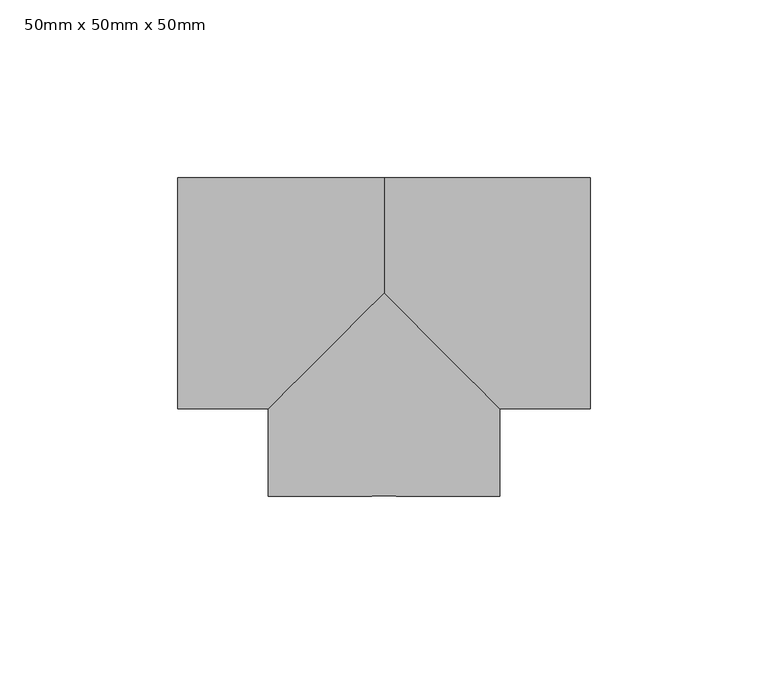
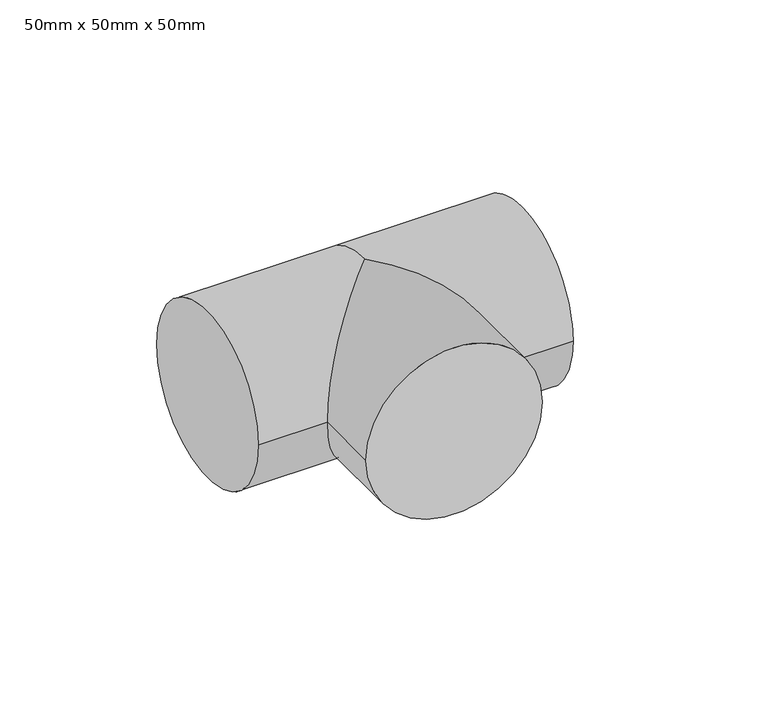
"""IFC4 building model written with IfcOpenShell, lengths in millimetres: pipe fitting geometry, PipeFitting_HTA_CPVC_Tees90° : 50mm x 50mm x 50mm."""

from ifc_helpers import new_model, si_unit, frame, origin, place, context, project, spatial, circle_curve, ellipse_curve, source, transform, mapped, element, save
from ifc_brep_helpers import plane_surface, cylinder_surface, advanced_brep


def pipe_fitting_50mm_x_50mm_x_50mm_cc9808cf(model_context):
    return source(origin(), model_context, "Body", "AdvancedBrep", [
        advanced_brep(
        [(-32.5, -57.0, 0.0), (32.5, -57.0, 0.0), (32.5, -32.5, 0.0), (0.0, 0.0, 32.5), (-32.5, -32.5, 0.0), (0.0, 0.0, -32.5), (-58.0, -32.5, 0.0), (-58.0, 32.5, 0.0), (0.0, 32.5, 0.0), (58.0, -32.5, 0.0), (58.0, 32.5, 0.0)],
        [
            (0, 1, circle_curve(frame((0.0, -57.0, 0.0), z_axis=(0.0, -1.0, 0.0), x_axis=(1.0, 0.0, 0.0)), 32.5)),
            (1, 0, circle_curve(frame((0.0, -57.0, 0.0), z_axis=(0.0, -1.0, 0.0), x_axis=(1.0, 0.0, 0.0)), 32.5)),
            (1, 2),
            (2, 3, ellipse_curve(frame((0.0, 0.0, 0.0), z_axis=(-0.7071067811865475, -0.7071067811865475, 0.0), x_axis=(-0.7071067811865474, 0.7071067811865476, 0.0)), 45.9619408, 32.5)),
            (3, 4, ellipse_curve(frame((0.0, 0.0, 0.0), z_axis=(0.7071067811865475, -0.7071067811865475, 0.0), x_axis=(0.7071067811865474, 0.7071067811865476, 0.0)), 45.9619408, 32.5)),
            (4, 0),
            (4, 5, ellipse_curve(frame((0.0, 0.0, 0.0), z_axis=(0.7071067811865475, -0.7071067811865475, 0.0), x_axis=(0.7071067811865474, 0.7071067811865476, 0.0)), 45.9619408, 32.5)),
            (5, 2, ellipse_curve(frame((0.0, 0.0, 0.0), z_axis=(-0.7071067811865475, -0.7071067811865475, 0.0), x_axis=(-0.7071067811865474, 0.7071067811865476, 0.0)), 45.9619408, 32.5)),
            (6, 7, circle_curve(frame((-58.0, 0.0, 0.0), z_axis=(-1.0, 0.0, 0.0), x_axis=(0.0, 1.0, 0.0)), 32.5)),
            (7, 6, circle_curve(frame((-58.0, 0.0, 0.0), z_axis=(-1.0, 0.0, 0.0), x_axis=(0.0, 1.0, 0.0)), 32.5)),
            (6, 4),
            (3, 8, circle_curve(frame((0.0, 0.0, 0.0), z_axis=(-1.0, 0.0, 0.0), x_axis=(0.0, 1.0, 0.0)), 32.5)),
            (8, 7),
            (8, 5, circle_curve(frame((0.0, 0.0, 0.0), z_axis=(-1.0, 0.0, 0.0), x_axis=(0.0, 1.0, 0.0)), 32.5)),
            (9, 10, circle_curve(frame((58.0, 0.0, 0.0), z_axis=(1.0, 0.0, 0.0), x_axis=(0.0, 1.0, 0.0)), 32.5)),
            (10, 9, circle_curve(frame((58.0, 0.0, 0.0), z_axis=(1.0, 0.0, 0.0), x_axis=(0.0, 1.0, 0.0)), 32.5)),
            (10, 8),
            (2, 9),
        ],
        [
            plane_surface(frame((0.0, -57.0, 0.0), z_axis=(0.0, -1.0, 0.0), x_axis=(0.0, 0.0, 1.0))),
            cylinder_surface(frame((0.0, 0.0, 0.0), z_axis=(0.0, 1.0, 0.0), x_axis=(1.0, 0.0, 0.0)), 32.5),
            plane_surface(frame((-58.0, 0.0, 0.0), z_axis=(-1.0, 0.0, 0.0), x_axis=(0.0, 0.0, 1.0))),
            cylinder_surface(frame((-58.0, 0.0, 0.0), z_axis=(-1.0, 0.0, 0.0), x_axis=(0.0, 1.0, 0.0)), 32.5),
            plane_surface(frame((58.0, 0.0, 0.0), z_axis=(1.0, 0.0, 0.0), x_axis=(0.0, 0.0, 1.0))),
            cylinder_surface(frame((0.0, 0.0, 0.0), z_axis=(-1.0, 0.0, 0.0), x_axis=(0.0, 1.0, 0.0)), 32.5),
        ],
        [
            (0, [[1, 2]]),
            (1, [[-2, 3, 4, 5, 6]]),
            (1, [[-1, -6, 7, 8, -3]]),
            (2, [[9, 10]]),
            (3, [[-9, 11, -5, 12, 13]]),
            (3, [[-10, -13, 14, -7, -11]]),
            (4, [[15, 16]]),
            (5, [[-16, 17, -12, -4, 18]]),
            (5, [[-15, -18, -8, -14, -17]]),
        ],
    ),
    ])


if __name__ == "__main__":
    model = new_model("IFC4")
    model_context = context("Model", 3, world=origin())
    ifc_project = project(units=[si_unit("LENGTHUNIT", "METRE", prefix="MILLI")], contexts=[model_context])
    site = spatial("IfcSite", under=ifc_project)
    building = spatial("IfcBuilding", under=site)
    placement = place(None, origin())
    pipe_fitting_50mm_x_50mm_x_50mm_shape = pipe_fitting_50mm_x_50mm_x_50mm_cc9808cf(model_context)
    element("IfcPipeFitting", 1, ObjectType="PipeFitting_HTA_CPVC_Tees90° : 50mm x 50mm x 50mm", at=placement, inside=building, context=model_context, shape_type="MappedRepresentation", body=[
        mapped(pipe_fitting_50mm_x_50mm_x_50mm_shape, transform((0.0, 0.0, 0.0), x_axis=(1.0, 0.0, 0.0), y_axis=(0.0, 1.0, 0.0), z_axis=(0.0, 0.0, 1.0))),
    ])
    save(model, "model.ifc")
